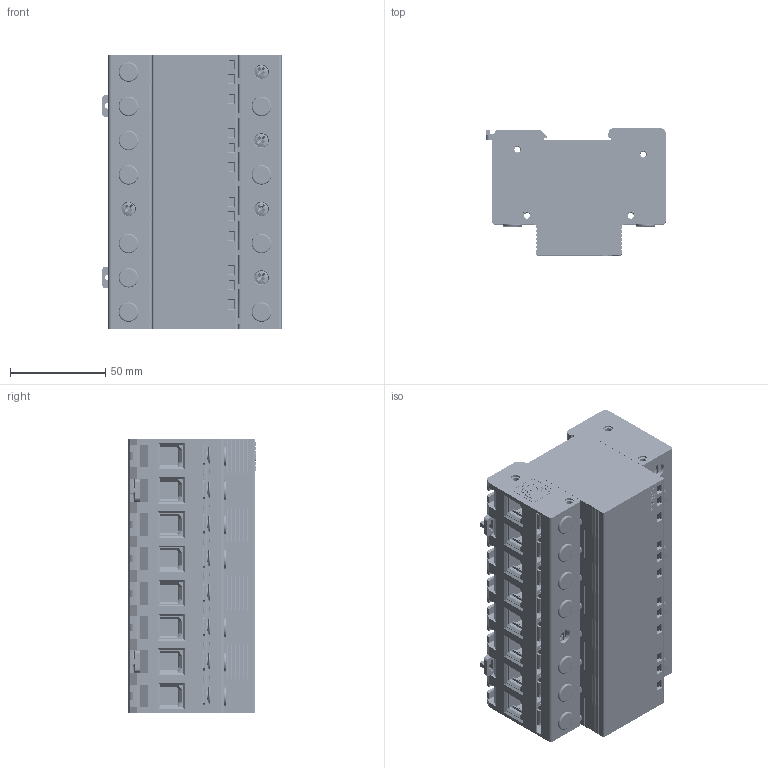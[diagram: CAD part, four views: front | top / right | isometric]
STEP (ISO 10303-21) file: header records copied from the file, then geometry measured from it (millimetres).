
FILE_DESCRIPTION((''),'2;1');
FILE_NAME('TENGEN_TGDY55II_100_385V_4P','2024-01-11T16:36:20',('zhanghualong1'),(''),'CREO PARAMETRIC BY PTC INC, 2020354','CREO PARAMETRIC BY PTC INC, 2020354','');
FILE_SCHEMA(('CONFIG_CONTROL_DESIGN'));
Products named in the file (1): TENGEN_TGDY55II_100_385V_4P
Bounding box: 94.1 x 66.9 x 144 mm (x, y, z)
Volume: 330692.2 mm3; surface area: 377279.8 mm2
Topology: 17 solids, 34 shells, 15748 faces, 43951 edges, 28324 vertices
Faces by surface type: plane 11828, cylinder 2875, cone 344, extrusion 248, torus 242, bspline 146, sphere 65
Entity records: 523883 total; most frequent: CARTESIAN_POINT 117658, ORIENTED_EDGE 87830, DIRECTION 79222, EDGE_CURVE 43915, VECTOR 36252, LINE 36004, VERTEX_POINT 28324, AXIS2_PLACEMENT_3D 21485
